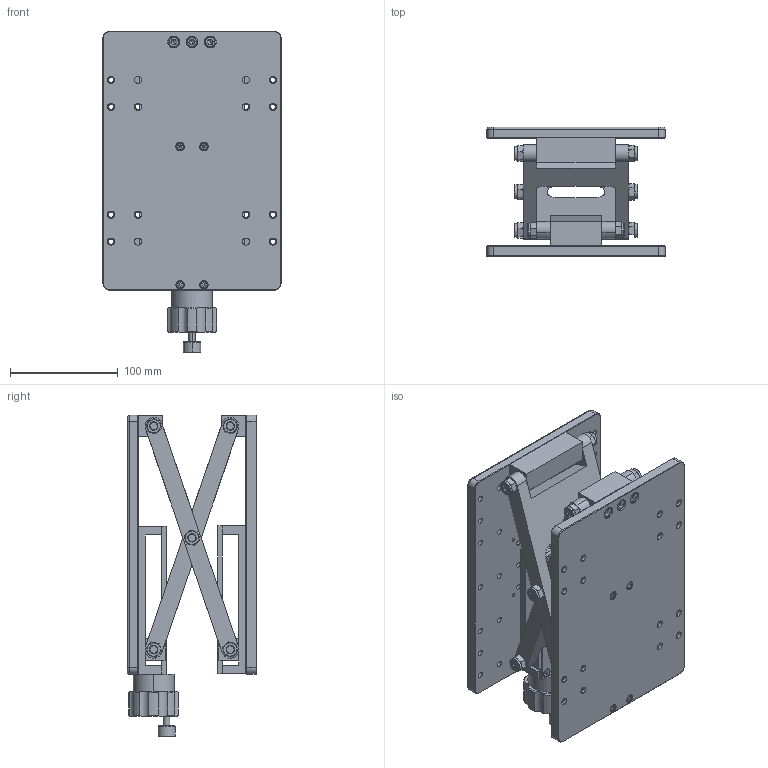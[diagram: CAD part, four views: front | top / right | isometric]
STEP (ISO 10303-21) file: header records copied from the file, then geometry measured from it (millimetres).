
FILE_DESCRIPTION (( 'STEP AP203' ), '1' );
FILE_NAME ('手动升降台：ZT410MS120.STEP', '2020-02-05T09:26:34', ( '' ), ( '' ), 'SwSTEP 2.0', 'SolidWorks 2016', '' );
FILE_SCHEMA (( 'CONFIG_CONTROL_DESIGN' ));
Length unit declared in the file: millimetre
Products named in the file (1): 手动升降台：ZT410MS120
Bounding box: 165 x 120 x 298 mm (x, y, z)
Surface area: 339184.8 mm2 (no closed solid volume)
Topology: 0 solids, 59 shells, 849 faces, 2534 edges, 1700 vertices
Faces by surface type: plane 343, cylinder 309, cone 145, torus 52
Entity records: 29294 total; most frequent: CARTESIAN_POINT 5829, DIRECTION 5168, ORIENTED_EDGE 4293, EDGE_CURVE 2510, AXIS2_PLACEMENT_3D 2005, VERTEX_POINT 1700, LINE 1158, VECTOR 1158
